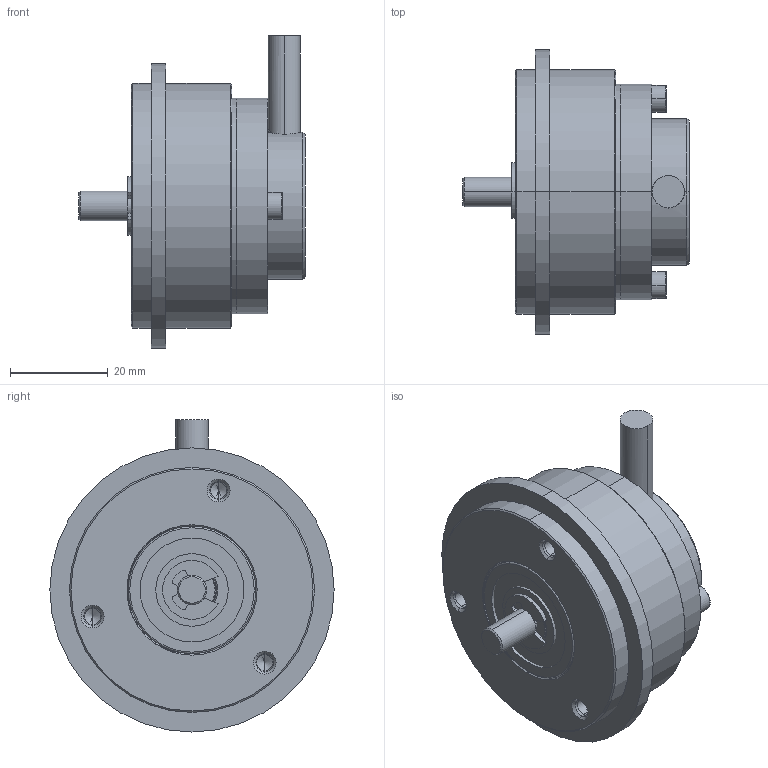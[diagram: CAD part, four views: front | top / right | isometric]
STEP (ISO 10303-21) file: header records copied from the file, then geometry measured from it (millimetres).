
FILE_DESCRIPTION (( 'STEP AP214' ), '1' );
FILE_NAME ('ËÈÐ-ÌÀ158À_èñï 3.STEP', '2017-05-23T08:34:46', ( '' ), ( '' ), 'SwSTEP 2.0', 'SolidWorks 2013', '' );
FILE_SCHEMA (( 'AUTOMOTIVE_DESIGN' ));
Length unit declared in the file: millimetre
Products named in the file (1): ËÈÐ-ÌÀ158À_èñï 3
Bounding box: 46.3 x 58 x 63.69 mm (x, y, z)
Volume: 48517.5 mm3; surface area: 32276.1 mm2
Topology: 25 solids, 25 shells, 1436 faces, 3830 edges, 2415 vertices
Faces by surface type: cone 580, cylinder 457, plane 176, sphere 128, torus 84, bspline 11
Entity records: 69161 total; most frequent: CARTESIAN_POINT 16711, DIRECTION 8146, ORIENTED_EDGE 7612, EDGE_CURVE 3806, AXIS2_PLACEMENT_3D 3490, VERTEX_POINT 2415, CIRCLE 2064, EDGE_LOOP 1541
